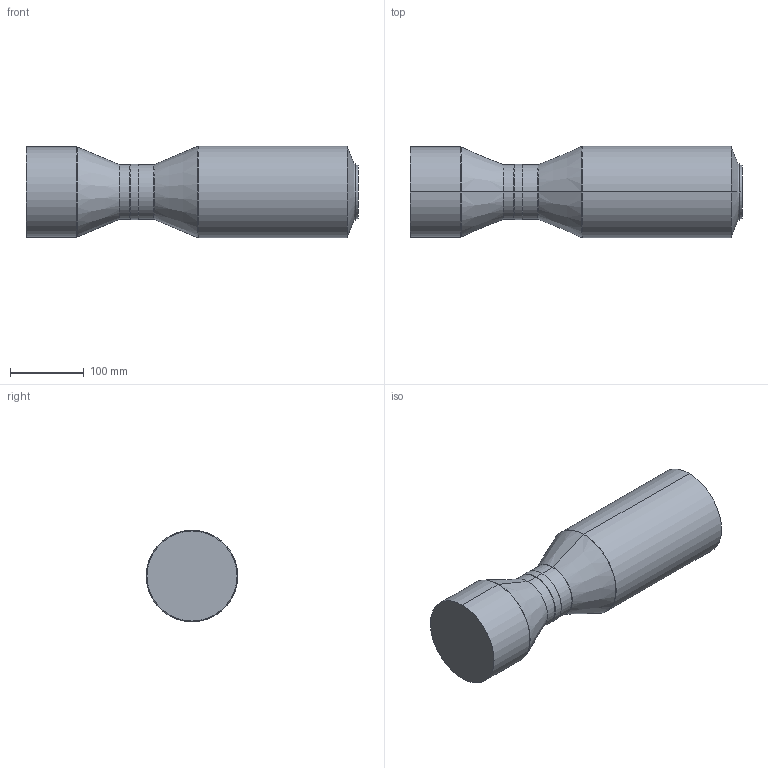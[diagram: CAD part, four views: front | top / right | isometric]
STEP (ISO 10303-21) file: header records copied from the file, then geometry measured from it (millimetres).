
FILE_DESCRIPTION((''),'2;1');
FILE_NAME('LS-LBT-1-162-M72-19.5','2022-05-16T14:35:19',('LumaSpec Vision'),('LumaSpec Vision'),'CREO PARAMETRIC BY PTC INC, 2017260','CREO PARAMETRIC BY PTC INC, 2017260','');
FILE_SCHEMA(('CONFIG_CONTROL_DESIGN'));
Length unit declared in the file: millimetre
Products named in the file (1): LS-LBT-1-162-M72-0001
Bounding box: 449.7 x 124 x 124 mm (x, y, z)
Volume: 4455537 mm3; surface area: 181248.9 mm2
Topology: 1 solids, 1 shells, 36 faces, 70 edges, 38 vertices
Faces by surface type: cylinder 16, cone 10, torus 6, plane 4
Entity records: 948 total; most frequent: DIRECTION 186, CARTESIAN_POINT 144, ORIENTED_EDGE 140, AXIS2_PLACEMENT_3D 80, EDGE_CURVE 70, CIRCLE 44, VERTEX_POINT 38, EDGE_LOOP 38
